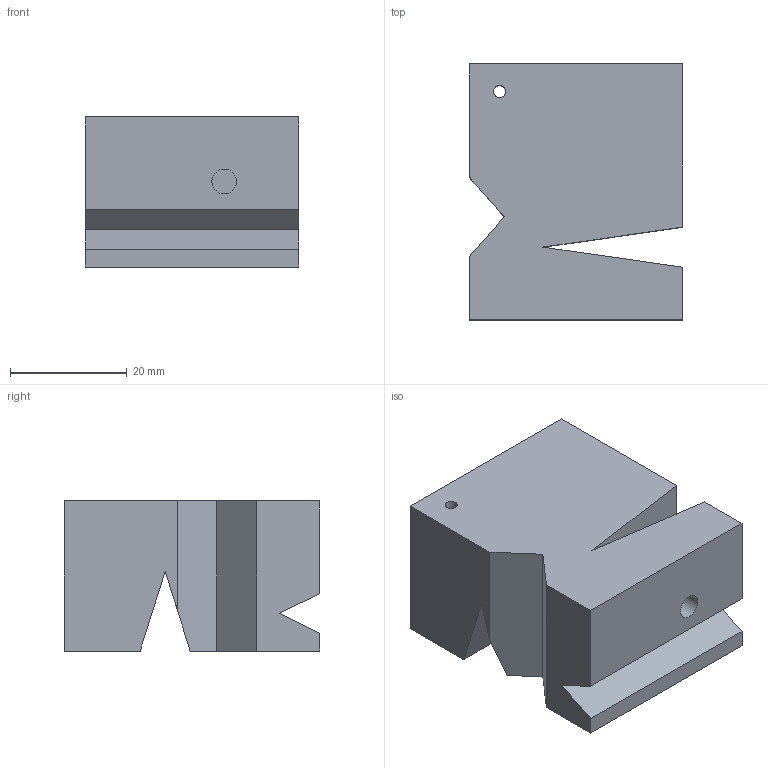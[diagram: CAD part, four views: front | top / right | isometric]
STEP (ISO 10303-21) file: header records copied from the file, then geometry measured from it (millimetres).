
FILE_DESCRIPTION(('Open CASCADE Model'),'2;1');
FILE_NAME('Open CASCADE Shape Model','2021-05-13T11:31:17',('Author'),( 'Open CASCADE'),'Open CASCADE STEP processor 7.4','Open CASCADE 7.4' ,'Unknown');
FILE_SCHEMA(('AUTOMOTIVE_DESIGN { 1 0 10303 214 1 1 1 1 }'));
Length unit declared in the file: millimetre
Products named in the file (1): Open CASCADE STEP translator 7.4 320
Bounding box: 36.59 x 43.84 x 25.71 mm (x, y, z)
Volume: 34392.7 mm3; surface area: 9938.5 mm2
Topology: 1 solids, 1 shells, 33 faces, 82 edges, 54 vertices
Faces by surface type: plane 26, cylinder 7
Full cylindrical faces by diameter (mm): 2.081 x1, 3.248 x1, 4.214 x1
Entity records: 2060 total; most frequent: CARTESIAN_POINT 400, DIRECTION 302, LINE 200, VECTOR 200, ORIENTED_EDGE 164, PCURVE 164, DEFINITIONAL_REPRESENTATION 164, EDGE_CURVE 82
